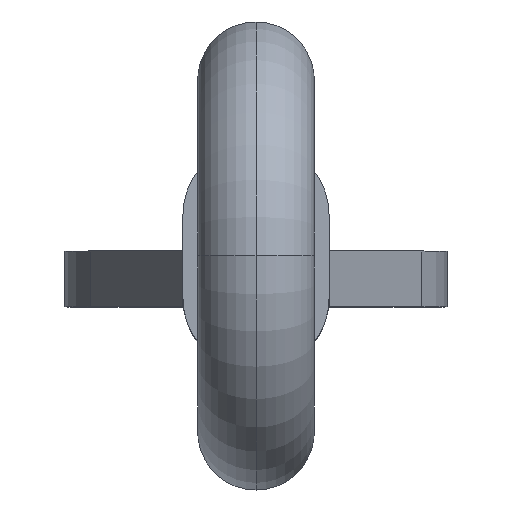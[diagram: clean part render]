
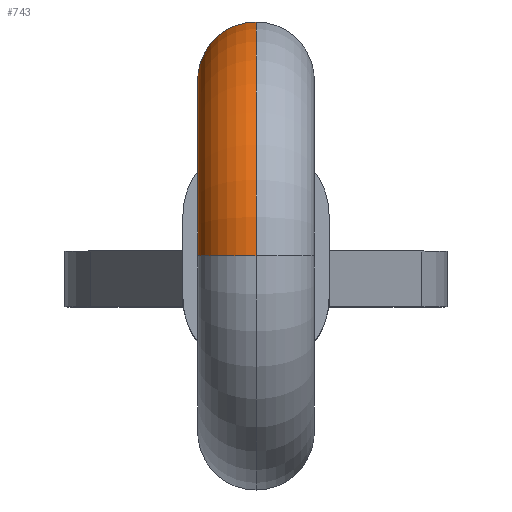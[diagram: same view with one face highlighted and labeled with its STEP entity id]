
A CAD part, top view. The second image highlights one B-rep face of the part: STEP entity #743.
In plain terms, the highlighted toroidal (fillet/blend) face has major radius 4.8 mm and minor radius 1.59 mm.
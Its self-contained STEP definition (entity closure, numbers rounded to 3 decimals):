
#23 = CIRCLE ( 'NONE', #153, 1.59 ) ;
#41 = AXIS2_PLACEMENT_3D ( 'NONE', #510, #361, #79 ) ;
#70 = CIRCLE ( 'NONE', #768, 6.39 ) ;
#79 = DIRECTION ( 'NONE',  ( 1., 0., 0. ) ) ;
#113 = DIRECTION ( 'NONE',  ( 0., 0., 1. ) ) ;
#120 = VERTEX_POINT ( 'NONE', #942 ) ;
#123 = FACE_OUTER_BOUND ( 'NONE', #452, .T. ) ;
#153 = AXIS2_PLACEMENT_3D ( 'NONE', #783, #473, #255 ) ;
#181 = CARTESIAN_POINT ( 'NONE',  ( 0., 1.259, 285.66 ) ) ;
#222 = ORIENTED_EDGE ( 'NONE', *, *, #306, .T. ) ;
#226 = DIRECTION ( 'NONE',  ( -1., 0., 0. ) ) ;
#234 = ORIENTED_EDGE ( 'NONE', *, *, #428, .T. ) ;
#235 = CIRCLE ( 'NONE', #41, 1.59 ) ;
#255 = DIRECTION ( 'NONE',  ( 0., 0., -1. ) ) ;
#306 = EDGE_CURVE ( 'NONE', #797, #382, #70, .T. ) ;
#358 = EDGE_CURVE ( 'NONE', #120, #666, #909, .T. ) ;
#361 = DIRECTION ( 'NONE',  ( 0., 0.667, 0.745 ) ) ;
#382 = VERTEX_POINT ( 'NONE', #767 ) ;
#418 = CARTESIAN_POINT ( 'NONE',  ( 0., -1.133, 287.8 ) ) ;
#427 = ORIENTED_EDGE ( 'NONE', *, *, #358, .F. ) ;
#428 = EDGE_CURVE ( 'NONE', #382, #666, #235, .T. ) ;
#429 = DIRECTION ( 'NONE',  ( 0., 0., 1. ) ) ;
#430 = DIRECTION ( 'NONE',  ( -1., 0., 0. ) ) ;
#451 = AXIS2_PLACEMENT_3D ( 'NONE', #538, #226, #461 ) ;
#452 = EDGE_LOOP ( 'NONE', ( #485, #222, #234, #427 ) ) ;
#461 = DIRECTION ( 'NONE',  ( 0., 0., 1. ) ) ;
#473 = DIRECTION ( 'NONE',  ( 0., -1., 0. ) ) ;
#485 = ORIENTED_EDGE ( 'NONE', *, *, #534, .F. ) ;
#510 = CARTESIAN_POINT ( 'NONE',  ( 0., 2.445, 284.6 ) ) ;
#534 = EDGE_CURVE ( 'NONE', #797, #120, #23, .T. ) ;
#538 = CARTESIAN_POINT ( 'NONE',  ( 0., -1.133, 287.8 ) ) ;
#574 = DIRECTION ( 'NONE',  ( -1., 0., 0. ) ) ;
#615 = TOROIDAL_SURFACE ( 'NONE', #652, 4.8, 1.59 ) ;
#649 = CARTESIAN_POINT ( 'NONE',  ( 0., -1.133, 287.8 ) ) ;
#652 = AXIS2_PLACEMENT_3D ( 'NONE', #418, #430, #113 ) ;
#658 = CARTESIAN_POINT ( 'NONE',  ( 0., -1.133, 294.19 ) ) ;
#666 = VERTEX_POINT ( 'NONE', #181 ) ;
#743 = ADVANCED_FACE ( 'NONE', ( #123 ), #615, .T. ) ;
#767 = CARTESIAN_POINT ( 'NONE',  ( 0., 3.63, 283.54 ) ) ;
#768 = AXIS2_PLACEMENT_3D ( 'NONE', #649, #574, #429 ) ;
#783 = CARTESIAN_POINT ( 'NONE',  ( 0., -1.133, 292.6 ) ) ;
#797 = VERTEX_POINT ( 'NONE', #658 ) ;
#909 = CIRCLE ( 'NONE', #451, 3.21 ) ;
#942 = CARTESIAN_POINT ( 'NONE',  ( 0., -1.133, 291.01 ) ) ;
